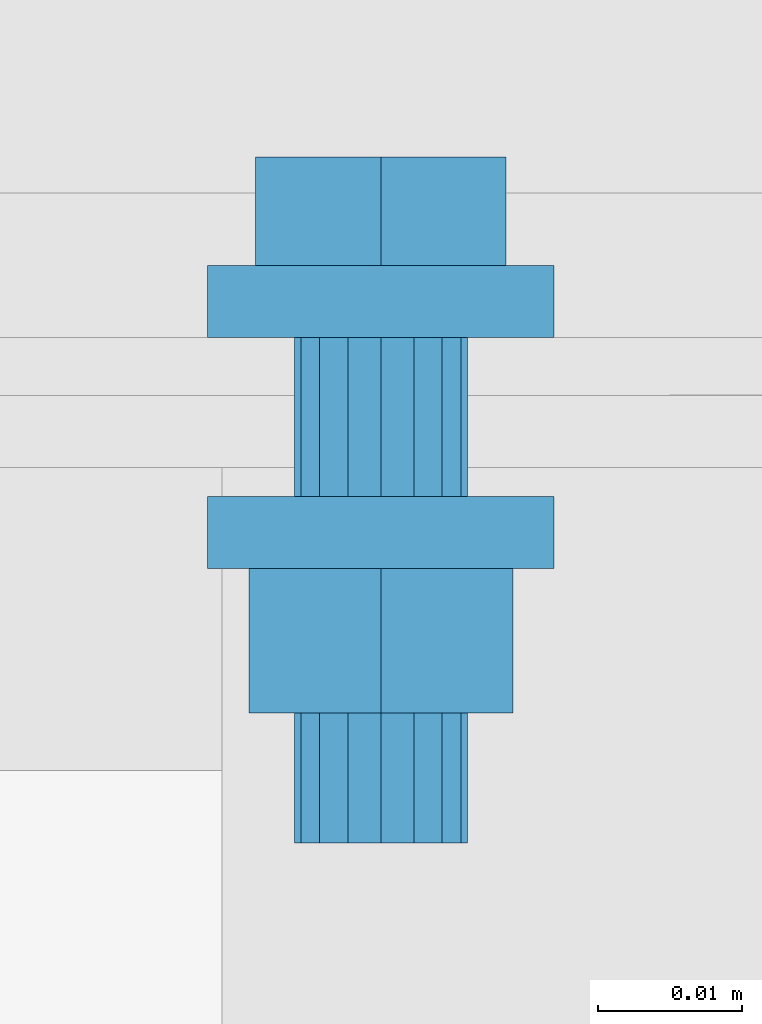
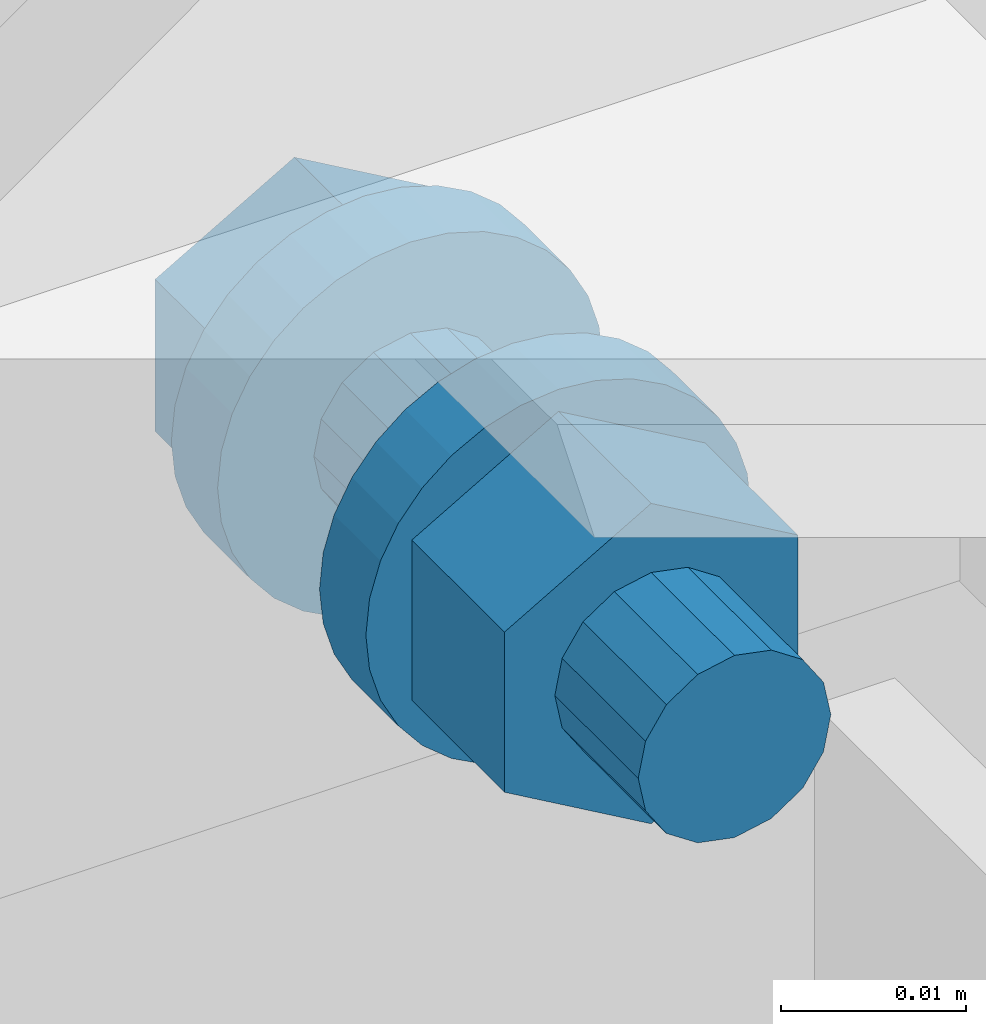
# One storey, part 46 of 116: 1 mechanical fastener.
"""IFC2X3 building model written with IfcOpenShell, lengths in millimetres."""

from ifc_helpers import new_model, entity, si_unit, converted_unit, origin_with_axes, place, context, project, spatial, faceted_brep, element, save


model = new_model("IFC2X3")

# Units and contexts
model_context = context("Model", 3, precision=1e-09, world=origin_with_axes())
ifc_project = project(units=[si_unit("LENGTHUNIT", "METRE", prefix="MILLI"), si_unit("AREAUNIT", "SQUARE_METRE"), si_unit("VOLUMEUNIT", "CUBIC_METRE"), converted_unit("PLANEANGLEUNIT", "DEGREE", entity("IfcPlaneAngleMeasure", 0.01745329), si_unit("PLANEANGLEUNIT", "RADIAN"), dimensions=[0, 0, 0, 0, 0, 0, 0])], contexts=[model_context])

# Site, building, storey
site_placement = place(None, origin_with_axes())
site = spatial("IfcSite", under=ifc_project, at=site_placement, Name="Site", CompositionType="ELEMENT")
building_placement = place(site_placement, origin_with_axes())
building = spatial("IfcBuilding", under=site, at=building_placement, Name="Struktur 1", CompositionType="ELEMENT")
storey_placement = place(building_placement, origin_with_axes())
storey = spatial("IfcBuildingStorey", under=building, at=storey_placement, Name="Default Storey", CompositionType="ELEMENT", Elevation=0.0)

# Mechanical fastener
mechanical_fastener_placement = place(None, origin_with_axes())
element("IfcMechanicalFastener", 1, at=mechanical_fastener_placement, inside=storey, ObjectType="-", NominalDiameter=12.0, NominalLength=40.0, context=model_context, shape_type="Brep", body=[
    faceted_brep([(59165.049134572, 10430.358883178, -533.0), (59165.049134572, 10432.858883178, -533.0), (59165.279711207, 10432.858883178, -535.341083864), (59165.279711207, 10430.358883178, -535.341083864), (59165.962580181, 10432.858883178, -537.592201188), (59165.962580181, 10430.358883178, -537.592201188), (59167.071499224, 10432.858883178, -539.666842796), (59167.071499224, 10430.358883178, -539.666842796), (59168.563853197, 10432.858883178, -541.485281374), (59168.563853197, 10430.358883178, -541.485281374), (59170.382291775, 10432.858883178, -542.977635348), (59170.382291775, 10430.358883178, -542.977635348), (59172.456933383, 10432.858883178, -544.08655439), (59172.456933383, 10430.358883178, -544.08655439), (59174.708050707, 10432.858883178, -544.769423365), (59174.708050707, 10430.358883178, -544.769423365), (59177.049134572, 10432.858883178, -545.0), (59177.049134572, 10430.358883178, -545.0), (59179.390218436, 10432.858883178, -544.769423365), (59179.390218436, 10430.358883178, -544.769423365), (59181.64133576, 10432.858883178, -544.08655439), (59181.64133576, 10430.358883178, -544.08655439), (59183.715977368, 10432.858883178, -542.977635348), (59183.715977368, 10430.358883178, -542.977635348), (59185.534415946, 10432.858883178, -541.485281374), (59185.534415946, 10430.358883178, -541.485281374), (59187.026769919, 10432.858883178, -539.666842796), (59187.026769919, 10430.358883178, -539.666842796), (59188.135688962, 10432.858883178, -537.592201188), (59188.135688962, 10430.358883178, -537.592201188), (59188.818557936, 10432.858883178, -535.341083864), (59188.818557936, 10430.358883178, -535.341083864), (59189.049134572, 10432.858883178, -533.0), (59189.049134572, 10430.358883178, -533.0), (59188.818557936, 10432.858883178, -530.658916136), (59188.818557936, 10430.358883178, -530.658916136), (59188.135688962, 10432.858883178, -528.407798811), (59188.135688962, 10430.358883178, -528.407798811), (59187.026769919, 10432.858883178, -526.333157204), (59187.026769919, 10430.358883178, -526.333157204), (59185.534415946, 10432.858883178, -524.514718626), (59185.534415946, 10430.358883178, -524.514718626), (59183.715977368, 10432.858883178, -523.022364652), (59183.715977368, 10430.358883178, -523.022364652), (59181.64133576, 10432.858883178, -521.91344561), (59181.64133576, 10430.358883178, -521.91344561), (59179.390218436, 10432.858883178, -521.230576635), (59179.390218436, 10430.358883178, -521.230576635), (59177.049134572, 10432.858883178, -521.0), (59177.049134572, 10430.358883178, -521.0), (59174.708050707, 10432.858883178, -521.230576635), (59174.708050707, 10430.358883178, -521.230576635), (59172.456933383, 10432.858883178, -521.91344561), (59172.456933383, 10430.358883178, -521.91344561), (59170.382291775, 10432.858883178, -523.022364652), (59170.382291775, 10430.358883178, -523.022364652), (59168.563853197, 10432.858883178, -524.514718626), (59168.563853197, 10430.358883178, -524.514718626), (59167.071499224, 10432.858883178, -526.333157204), (59167.071499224, 10430.358883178, -526.333157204), (59165.962580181, 10432.858883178, -528.407798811), (59165.962580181, 10430.358883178, -528.407798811), (59165.279711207, 10432.858883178, -530.658916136), (59165.279711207, 10430.358883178, -530.658916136)], [[[0, 1, 2, 3]], [[3, 2, 4, 5]], [[5, 4, 6, 7]], [[7, 6, 8, 9]], [[9, 8, 10, 11]], [[11, 10, 12, 13]], [[13, 12, 14, 15]], [[15, 14, 16, 17]], [[17, 16, 18, 19]], [[19, 18, 20, 21]], [[21, 20, 22, 23]], [[23, 22, 24, 25]], [[25, 24, 26, 27]], [[27, 26, 28, 29]], [[29, 28, 30, 31]], [[31, 30, 32, 33]], [[33, 32, 34, 35]], [[35, 34, 36, 37]], [[37, 36, 38, 39]], [[39, 38, 40, 41]], [[41, 40, 42, 43]], [[43, 42, 44, 45]], [[45, 44, 46, 47]], [[47, 46, 48, 49]], [[49, 48, 50, 51]], [[51, 50, 52, 53]], [[53, 52, 54, 55]], [[55, 54, 56, 57]], [[57, 56, 58, 59]], [[59, 58, 60, 61]], [[61, 60, 62, 63]], [[63, 62, 1, 0]], [[2, 1, 62, 60, 58, 56, 54, 52, 50, 48, 46, 44, 42, 40, 38, 36, 34, 32, 30, 28, 26, 24, 22, 20, 18, 16, 14, 12, 10, 8, 6, 4]], [[63, 0, 3, 5, 7, 9, 11, 13, 15, 17, 19, 21, 23, 25, 27, 29, 31, 33, 35, 37, 39, 41, 43, 45, 47, 49, 51, 53, 55, 57, 59, 61]]]),
    faceted_brep([(59165.049134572, 10432.858883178, -533.0), (59165.049134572, 10435.358883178, -533.0), (59165.279711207, 10435.358883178, -535.341083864), (59165.279711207, 10432.858883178, -535.341083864), (59165.962580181, 10435.358883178, -537.592201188), (59165.962580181, 10432.858883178, -537.592201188), (59167.071499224, 10435.358883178, -539.666842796), (59167.071499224, 10432.858883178, -539.666842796), (59168.563853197, 10435.358883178, -541.485281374), (59168.563853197, 10432.858883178, -541.485281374), (59170.382291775, 10435.358883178, -542.977635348), (59170.382291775, 10432.858883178, -542.977635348), (59172.456933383, 10435.358883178, -544.08655439), (59172.456933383, 10432.858883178, -544.08655439), (59174.708050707, 10435.358883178, -544.769423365), (59174.708050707, 10432.858883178, -544.769423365), (59177.049134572, 10435.358883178, -545.0), (59177.049134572, 10432.858883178, -545.0), (59179.390218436, 10435.358883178, -544.769423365), (59179.390218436, 10432.858883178, -544.769423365), (59181.64133576, 10435.358883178, -544.08655439), (59181.64133576, 10432.858883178, -544.08655439), (59183.715977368, 10435.358883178, -542.977635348), (59183.715977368, 10432.858883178, -542.977635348), (59185.534415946, 10435.358883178, -541.485281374), (59185.534415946, 10432.858883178, -541.485281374), (59187.026769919, 10435.358883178, -539.666842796), (59187.026769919, 10432.858883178, -539.666842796), (59188.135688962, 10435.358883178, -537.592201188), (59188.135688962, 10432.858883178, -537.592201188), (59188.818557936, 10435.358883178, -535.341083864), (59188.818557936, 10432.858883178, -535.341083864), (59189.049134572, 10435.358883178, -533.0), (59189.049134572, 10432.858883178, -533.0), (59188.818557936, 10435.358883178, -530.658916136), (59188.818557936, 10432.858883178, -530.658916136), (59188.135688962, 10435.358883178, -528.407798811), (59188.135688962, 10432.858883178, -528.407798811), (59187.026769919, 10435.358883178, -526.333157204), (59187.026769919, 10432.858883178, -526.333157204), (59185.534415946, 10435.358883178, -524.514718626), (59185.534415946, 10432.858883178, -524.514718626), (59183.715977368, 10435.358883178, -523.022364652), (59183.715977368, 10432.858883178, -523.022364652), (59181.64133576, 10435.358883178, -521.91344561), (59181.64133576, 10432.858883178, -521.91344561), (59179.390218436, 10435.358883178, -521.230576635), (59179.390218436, 10432.858883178, -521.230576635), (59177.049134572, 10435.358883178, -521.0), (59177.049134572, 10432.858883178, -521.0), (59174.708050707, 10435.358883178, -521.230576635), (59174.708050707, 10432.858883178, -521.230576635), (59172.456933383, 10435.358883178, -521.91344561), (59172.456933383, 10432.858883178, -521.91344561), (59170.382291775, 10435.358883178, -523.022364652), (59170.382291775, 10432.858883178, -523.022364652), (59168.563853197, 10435.358883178, -524.514718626), (59168.563853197, 10432.858883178, -524.514718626), (59167.071499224, 10435.358883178, -526.333157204), (59167.071499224, 10432.858883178, -526.333157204), (59165.962580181, 10435.358883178, -528.407798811), (59165.962580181, 10432.858883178, -528.407798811), (59165.279711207, 10435.358883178, -530.658916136), (59165.279711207, 10432.858883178, -530.658916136)], [[[0, 1, 2, 3]], [[3, 2, 4, 5]], [[5, 4, 6, 7]], [[7, 6, 8, 9]], [[9, 8, 10, 11]], [[11, 10, 12, 13]], [[13, 12, 14, 15]], [[15, 14, 16, 17]], [[17, 16, 18, 19]], [[19, 18, 20, 21]], [[21, 20, 22, 23]], [[23, 22, 24, 25]], [[25, 24, 26, 27]], [[27, 26, 28, 29]], [[29, 28, 30, 31]], [[31, 30, 32, 33]], [[33, 32, 34, 35]], [[35, 34, 36, 37]], [[37, 36, 38, 39]], [[39, 38, 40, 41]], [[41, 40, 42, 43]], [[43, 42, 44, 45]], [[45, 44, 46, 47]], [[47, 46, 48, 49]], [[49, 48, 50, 51]], [[51, 50, 52, 53]], [[53, 52, 54, 55]], [[55, 54, 56, 57]], [[57, 56, 58, 59]], [[59, 58, 60, 61]], [[61, 60, 62, 63]], [[63, 62, 1, 0]], [[2, 1, 62, 60, 58, 56, 54, 52, 50, 48, 46, 44, 42, 40, 38, 36, 34, 32, 30, 28, 26, 24, 22, 20, 18, 16, 14, 12, 10, 8, 6, 4]], [[63, 0, 3, 5, 7, 9, 11, 13, 15, 17, 19, 21, 23, 25, 27, 29, 31, 33, 35, 37, 39, 41, 43, 45, 47, 49, 51, 53, 55, 57, 59, 61]]]),
    faceted_brep([(59185.722378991, 10442.858883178, -538.0075), (59185.722378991, 10435.358883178, -538.0075), (59177.049134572, 10435.358883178, -543.015), (59177.049134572, 10442.858883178, -543.015), (59168.375890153, 10435.358883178, -538.0075), (59168.375890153, 10442.858883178, -538.0075), (59168.375890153, 10435.358883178, -527.9925), (59168.375890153, 10442.858883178, -527.9925), (59177.049134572, 10435.358883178, -522.985), (59177.049134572, 10442.858883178, -522.985), (59185.722378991, 10435.358883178, -527.9925), (59185.722378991, 10442.858883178, -527.9925)], [[[0, 1, 2, 3]], [[3, 2, 4, 5]], [[5, 4, 6, 7]], [[7, 6, 8, 9]], [[9, 8, 10, 11]], [[11, 10, 1, 0]], [[3, 5, 7, 9, 11, 0]], [[2, 1, 10, 8, 6, 4]]]),
    faceted_brep([(59171.049134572, 10419.358883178, -533.0), (59171.049134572, 10430.358883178, -533.0), (59171.505857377, 10430.358883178, -535.296100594), (59171.505857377, 10419.358883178, -535.296100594), (59172.806493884, 10430.358883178, -537.242640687), (59172.806493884, 10419.358883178, -537.242640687), (59174.753033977, 10430.358883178, -538.543277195), (59174.753033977, 10419.358883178, -538.543277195), (59177.049134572, 10430.358883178, -539.0), (59177.049134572, 10419.358883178, -539.0), (59179.345235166, 10430.358883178, -538.543277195), (59179.345235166, 10419.358883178, -538.543277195), (59181.291775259, 10430.358883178, -537.242640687), (59181.291775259, 10419.358883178, -537.242640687), (59182.592411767, 10430.358883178, -535.296100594), (59182.592411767, 10419.358883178, -535.296100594), (59183.049134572, 10430.358883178, -533.0), (59183.049134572, 10419.358883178, -533.0), (59182.592411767, 10430.358883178, -530.703899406), (59182.592411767, 10419.358883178, -530.703899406), (59181.291775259, 10430.358883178, -528.757359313), (59181.291775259, 10419.358883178, -528.757359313), (59179.345235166, 10430.358883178, -527.456722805), (59179.345235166, 10419.358883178, -527.456722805), (59177.049134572, 10430.358883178, -527.0), (59177.049134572, 10419.358883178, -527.0), (59174.753033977, 10430.358883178, -527.456722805), (59174.753033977, 10419.358883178, -527.456722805), (59172.806493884, 10430.358883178, -528.757359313), (59172.806493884, 10419.358883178, -528.757359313), (59171.505857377, 10430.358883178, -530.703899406), (59171.505857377, 10419.358883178, -530.703899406)], [[[0, 1, 2, 3]], [[3, 2, 4, 5]], [[5, 4, 6, 7]], [[7, 6, 8, 9]], [[9, 8, 10, 11]], [[11, 10, 12, 13]], [[13, 12, 14, 15]], [[15, 14, 16, 17]], [[17, 16, 18, 19]], [[19, 18, 20, 21]], [[21, 20, 22, 23]], [[23, 22, 24, 25]], [[25, 24, 26, 27]], [[27, 26, 28, 29]], [[29, 28, 30, 31]], [[31, 30, 1, 0]], [[2, 1, 30, 28, 26, 24, 22, 20, 18, 16, 14, 12, 10, 8, 6, 4]], [[31, 0, 3, 5, 7, 9, 11, 13, 15, 17, 19, 21, 23, 25, 27, 29]]]),
    faceted_brep([(59165.049134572, 10416.858883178, -533.0), (59165.049134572, 10419.358883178, -533.0), (59165.279711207, 10419.358883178, -535.341083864), (59165.279711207, 10416.858883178, -535.341083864), (59165.962580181, 10419.358883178, -537.592201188), (59165.962580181, 10416.858883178, -537.592201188), (59167.071499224, 10419.358883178, -539.666842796), (59167.071499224, 10416.858883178, -539.666842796), (59168.563853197, 10419.358883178, -541.485281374), (59168.563853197, 10416.858883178, -541.485281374), (59170.382291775, 10419.358883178, -542.977635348), (59170.382291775, 10416.858883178, -542.977635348), (59172.456933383, 10419.358883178, -544.08655439), (59172.456933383, 10416.858883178, -544.08655439), (59174.708050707, 10419.358883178, -544.769423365), (59174.708050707, 10416.858883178, -544.769423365), (59177.049134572, 10419.358883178, -545.0), (59177.049134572, 10416.858883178, -545.0), (59179.390218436, 10419.358883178, -544.769423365), (59179.390218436, 10416.858883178, -544.769423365), (59181.64133576, 10419.358883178, -544.08655439), (59181.64133576, 10416.858883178, -544.08655439), (59183.715977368, 10419.358883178, -542.977635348), (59183.715977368, 10416.858883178, -542.977635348), (59185.534415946, 10419.358883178, -541.485281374), (59185.534415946, 10416.858883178, -541.485281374), (59187.026769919, 10419.358883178, -539.666842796), (59187.026769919, 10416.858883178, -539.666842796), (59188.135688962, 10419.358883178, -537.592201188), (59188.135688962, 10416.858883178, -537.592201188), (59188.818557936, 10419.358883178, -535.341083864), (59188.818557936, 10416.858883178, -535.341083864), (59189.049134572, 10419.358883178, -533.0), (59189.049134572, 10416.858883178, -533.0), (59188.818557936, 10419.358883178, -530.658916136), (59188.818557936, 10416.858883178, -530.658916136), (59188.135688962, 10419.358883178, -528.407798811), (59188.135688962, 10416.858883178, -528.407798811), (59187.026769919, 10419.358883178, -526.333157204), (59187.026769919, 10416.858883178, -526.333157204), (59185.534415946, 10419.358883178, -524.514718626), (59185.534415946, 10416.858883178, -524.514718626), (59183.715977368, 10419.358883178, -523.022364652), (59183.715977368, 10416.858883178, -523.022364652), (59181.64133576, 10419.358883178, -521.91344561), (59181.64133576, 10416.858883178, -521.91344561), (59179.390218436, 10419.358883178, -521.230576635), (59179.390218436, 10416.858883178, -521.230576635), (59177.049134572, 10419.358883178, -521.0), (59177.049134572, 10416.858883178, -521.0), (59174.708050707, 10419.358883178, -521.230576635), (59174.708050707, 10416.858883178, -521.230576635), (59172.456933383, 10419.358883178, -521.91344561), (59172.456933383, 10416.858883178, -521.91344561), (59170.382291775, 10419.358883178, -523.022364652), (59170.382291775, 10416.858883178, -523.022364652), (59168.563853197, 10419.358883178, -524.514718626), (59168.563853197, 10416.858883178, -524.514718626), (59167.071499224, 10419.358883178, -526.333157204), (59167.071499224, 10416.858883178, -526.333157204), (59165.962580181, 10419.358883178, -528.407798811), (59165.962580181, 10416.858883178, -528.407798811), (59165.279711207, 10419.358883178, -530.658916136), (59165.279711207, 10416.858883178, -530.658916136)], [[[0, 1, 2, 3]], [[3, 2, 4, 5]], [[5, 4, 6, 7]], [[7, 6, 8, 9]], [[9, 8, 10, 11]], [[11, 10, 12, 13]], [[13, 12, 14, 15]], [[15, 14, 16, 17]], [[17, 16, 18, 19]], [[19, 18, 20, 21]], [[21, 20, 22, 23]], [[23, 22, 24, 25]], [[25, 24, 26, 27]], [[27, 26, 28, 29]], [[29, 28, 30, 31]], [[31, 30, 32, 33]], [[33, 32, 34, 35]], [[35, 34, 36, 37]], [[37, 36, 38, 39]], [[39, 38, 40, 41]], [[41, 40, 42, 43]], [[43, 42, 44, 45]], [[45, 44, 46, 47]], [[47, 46, 48, 49]], [[49, 48, 50, 51]], [[51, 50, 52, 53]], [[53, 52, 54, 55]], [[55, 54, 56, 57]], [[57, 56, 58, 59]], [[59, 58, 60, 61]], [[61, 60, 62, 63]], [[63, 62, 1, 0]], [[2, 1, 62, 60, 58, 56, 54, 52, 50, 48, 46, 44, 42, 40, 38, 36, 34, 32, 30, 28, 26, 24, 22, 20, 18, 16, 14, 12, 10, 8, 6, 4]], [[63, 0, 3, 5, 7, 9, 11, 13, 15, 17, 19, 21, 23, 25, 27, 29, 31, 33, 35, 37, 39, 41, 43, 45, 47, 49, 51, 53, 55, 57, 59, 61]]]),
    faceted_brep([(59165.049134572, 10414.358883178, -533.0), (59165.049134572, 10416.858883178, -533.0), (59165.279711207, 10416.858883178, -535.341083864), (59165.279711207, 10414.358883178, -535.341083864), (59165.962580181, 10416.858883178, -537.592201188), (59165.962580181, 10414.358883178, -537.592201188), (59167.071499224, 10416.858883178, -539.666842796), (59167.071499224, 10414.358883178, -539.666842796), (59168.563853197, 10416.858883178, -541.485281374), (59168.563853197, 10414.358883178, -541.485281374), (59170.382291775, 10416.858883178, -542.977635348), (59170.382291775, 10414.358883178, -542.977635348), (59172.456933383, 10416.858883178, -544.08655439), (59172.456933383, 10414.358883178, -544.08655439), (59174.708050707, 10416.858883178, -544.769423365), (59174.708050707, 10414.358883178, -544.769423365), (59177.049134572, 10416.858883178, -545.0), (59177.049134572, 10414.358883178, -545.0), (59179.390218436, 10416.858883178, -544.769423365), (59179.390218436, 10414.358883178, -544.769423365), (59181.64133576, 10416.858883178, -544.08655439), (59181.64133576, 10414.358883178, -544.08655439), (59183.715977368, 10416.858883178, -542.977635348), (59183.715977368, 10414.358883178, -542.977635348), (59185.534415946, 10416.858883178, -541.485281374), (59185.534415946, 10414.358883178, -541.485281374), (59187.026769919, 10416.858883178, -539.666842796), (59187.026769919, 10414.358883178, -539.666842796), (59188.135688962, 10416.858883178, -537.592201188), (59188.135688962, 10414.358883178, -537.592201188), (59188.818557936, 10416.858883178, -535.341083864), (59188.818557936, 10414.358883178, -535.341083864), (59189.049134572, 10416.858883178, -533.0), (59189.049134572, 10414.358883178, -533.0), (59188.818557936, 10416.858883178, -530.658916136), (59188.818557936, 10414.358883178, -530.658916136), (59188.135688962, 10416.858883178, -528.407798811), (59188.135688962, 10414.358883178, -528.407798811), (59187.026769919, 10416.858883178, -526.333157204), (59187.026769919, 10414.358883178, -526.333157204), (59185.534415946, 10416.858883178, -524.514718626), (59185.534415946, 10414.358883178, -524.514718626), (59183.715977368, 10416.858883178, -523.022364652), (59183.715977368, 10414.358883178, -523.022364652), (59181.64133576, 10416.858883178, -521.91344561), (59181.64133576, 10414.358883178, -521.91344561), (59179.390218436, 10416.858883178, -521.230576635), (59179.390218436, 10414.358883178, -521.230576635), (59177.049134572, 10416.858883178, -521.0), (59177.049134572, 10414.358883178, -521.0), (59174.708050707, 10416.858883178, -521.230576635), (59174.708050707, 10414.358883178, -521.230576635), (59172.456933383, 10416.858883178, -521.91344561), (59172.456933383, 10414.358883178, -521.91344561), (59170.382291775, 10416.858883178, -523.022364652), (59170.382291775, 10414.358883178, -523.022364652), (59168.563853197, 10416.858883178, -524.514718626), (59168.563853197, 10414.358883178, -524.514718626), (59167.071499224, 10416.858883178, -526.333157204), (59167.071499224, 10414.358883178, -526.333157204), (59165.962580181, 10416.858883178, -528.407798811), (59165.962580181, 10414.358883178, -528.407798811), (59165.279711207, 10416.858883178, -530.658916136), (59165.279711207, 10414.358883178, -530.658916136)], [[[0, 1, 2, 3]], [[3, 2, 4, 5]], [[5, 4, 6, 7]], [[7, 6, 8, 9]], [[9, 8, 10, 11]], [[11, 10, 12, 13]], [[13, 12, 14, 15]], [[15, 14, 16, 17]], [[17, 16, 18, 19]], [[19, 18, 20, 21]], [[21, 20, 22, 23]], [[23, 22, 24, 25]], [[25, 24, 26, 27]], [[27, 26, 28, 29]], [[29, 28, 30, 31]], [[31, 30, 32, 33]], [[33, 32, 34, 35]], [[35, 34, 36, 37]], [[37, 36, 38, 39]], [[39, 38, 40, 41]], [[41, 40, 42, 43]], [[43, 42, 44, 45]], [[45, 44, 46, 47]], [[47, 46, 48, 49]], [[49, 48, 50, 51]], [[51, 50, 52, 53]], [[53, 52, 54, 55]], [[55, 54, 56, 57]], [[57, 56, 58, 59]], [[59, 58, 60, 61]], [[61, 60, 62, 63]], [[63, 62, 1, 0]], [[2, 1, 62, 60, 58, 56, 54, 52, 50, 48, 46, 44, 42, 40, 38, 36, 34, 32, 30, 28, 26, 24, 22, 20, 18, 16, 14, 12, 10, 8, 6, 4]], [[63, 0, 3, 5, 7, 9, 11, 13, 15, 17, 19, 21, 23, 25, 27, 29, 31, 33, 35, 37, 39, 41, 43, 45, 47, 49, 51, 53, 55, 57, 59, 61]]]),
    faceted_brep([(59186.185702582, 10414.358883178, -538.275), (59186.185702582, 10404.358883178, -538.275), (59177.049134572, 10404.358883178, -543.55), (59177.049134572, 10414.358883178, -543.55), (59167.912566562, 10404.358883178, -538.275), (59167.912566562, 10414.358883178, -538.275), (59167.912566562, 10404.358883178, -527.725), (59167.912566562, 10414.358883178, -527.725), (59177.049134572, 10404.358883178, -522.45), (59177.049134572, 10414.358883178, -522.45), (59186.185702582, 10404.358883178, -527.725), (59186.185702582, 10414.358883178, -527.725)], [[[0, 1, 2, 3]], [[3, 2, 4, 5]], [[5, 4, 6, 7]], [[7, 6, 8, 9]], [[9, 8, 10, 11]], [[11, 10, 1, 0]], [[3, 5, 7, 9, 11, 0]], [[2, 1, 10, 8, 6, 4]]]),
    faceted_brep([(59171.049134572, 10395.358883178, -533.0), (59171.049134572, 10404.358883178, -533.0), (59171.505857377, 10404.358883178, -535.296100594), (59171.505857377, 10395.358883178, -535.296100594), (59172.806493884, 10404.358883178, -537.242640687), (59172.806493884, 10395.358883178, -537.242640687), (59174.753033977, 10404.358883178, -538.543277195), (59174.753033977, 10395.358883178, -538.543277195), (59177.049134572, 10404.358883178, -539.0), (59177.049134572, 10395.358883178, -539.0), (59179.345235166, 10404.358883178, -538.543277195), (59179.345235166, 10395.358883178, -538.543277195), (59181.291775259, 10404.358883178, -537.242640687), (59181.291775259, 10395.358883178, -537.242640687), (59182.592411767, 10404.358883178, -535.296100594), (59182.592411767, 10395.358883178, -535.296100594), (59183.049134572, 10404.358883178, -533.0), (59183.049134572, 10395.358883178, -533.0), (59182.592411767, 10404.358883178, -530.703899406), (59182.592411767, 10395.358883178, -530.703899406), (59181.291775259, 10404.358883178, -528.757359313), (59181.291775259, 10395.358883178, -528.757359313), (59179.345235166, 10404.358883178, -527.456722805), (59179.345235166, 10395.358883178, -527.456722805), (59177.049134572, 10404.358883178, -527.0), (59177.049134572, 10395.358883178, -527.0), (59174.753033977, 10404.358883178, -527.456722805), (59174.753033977, 10395.358883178, -527.456722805), (59172.806493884, 10404.358883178, -528.757359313), (59172.806493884, 10395.358883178, -528.757359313), (59171.505857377, 10404.358883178, -530.703899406), (59171.505857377, 10395.358883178, -530.703899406)], [[[0, 1, 2, 3]], [[3, 2, 4, 5]], [[5, 4, 6, 7]], [[7, 6, 8, 9]], [[9, 8, 10, 11]], [[11, 10, 12, 13]], [[13, 12, 14, 15]], [[15, 14, 16, 17]], [[17, 16, 18, 19]], [[19, 18, 20, 21]], [[21, 20, 22, 23]], [[23, 22, 24, 25]], [[25, 24, 26, 27]], [[27, 26, 28, 29]], [[29, 28, 30, 31]], [[31, 30, 1, 0]], [[2, 1, 30, 28, 26, 24, 22, 20, 18, 16, 14, 12, 10, 8, 6, 4]], [[31, 0, 3, 5, 7, 9, 11, 13, 15, 17, 19, 21, 23, 25, 27, 29]]]),
])

save(model, "model.ifc")
